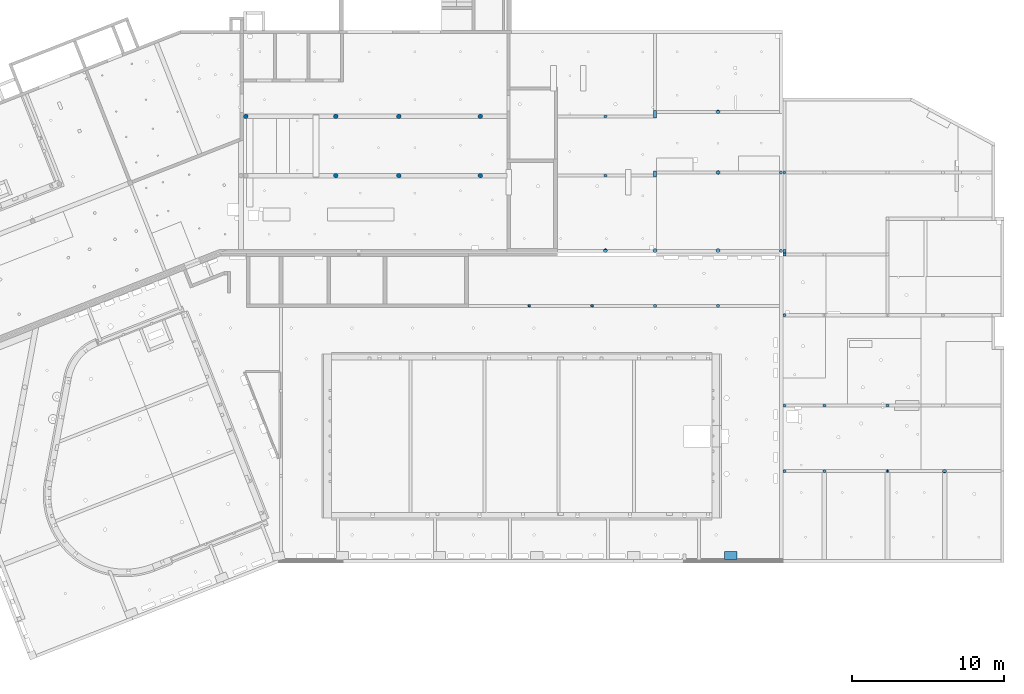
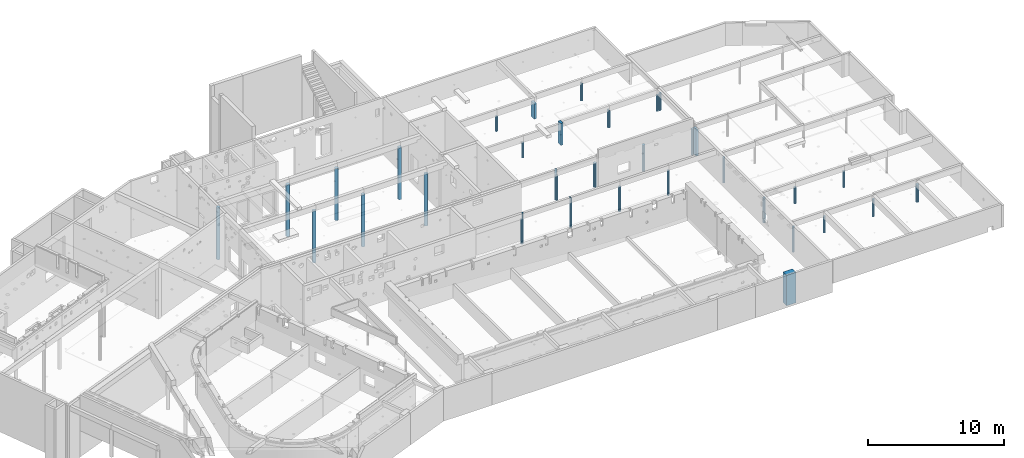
# One storey, part 2 of 28: 33 columns.
"""IFC2X3 building model written with IfcOpenShell, lengths in metres."""

from ifc_helpers import new_model, entity, si_unit, converted_unit, direction, frame, frame_2d, origin, origin_with_axes, place, context, subcontext, project, spatial, polyline, rectangle, circle, outline, extrude, clip, bounded_halfspace, material, element, save


model = new_model("IFC2X3")

# Units and contexts
model_context = context("Model", 3, precision=1e-05, world=origin(), true_north=direction((-0.407059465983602, -0.913401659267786)))
body_context = subcontext(model_context, "Body", "Model", "MODEL_VIEW")
ifc_project = project(units=[si_unit("LENGTHUNIT", "METRE"), si_unit("AREAUNIT", "SQUARE_METRE"), si_unit("VOLUMEUNIT", "CUBIC_METRE"), si_unit("MASSUNIT", "GRAM", prefix="KILO"), converted_unit("PLANEANGLEUNIT", "DEGREE", entity("IfcPlaneAngleMeasure", 0.0174532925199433), si_unit("PLANEANGLEUNIT", "RADIAN"), dimensions=[0, 0, 0, 0, 0, 0, 0])], contexts=[model_context])

# Site, buildings, storey
site_placement = place(None, origin())
site = spatial("IfcSite", under=ifc_project, at=site_placement, Name="Site", CompositionType="ELEMENT")
building_1_placement = place(site_placement, origin())
building_1 = spatial("IfcBuilding", under=site, at=building_1_placement, Name="Site", CompositionType="COMPLEX")
building_2_placement = place(building_1_placement, origin())
building_2 = spatial("IfcBuilding", under=building_1, at=building_2_placement, Name="Bâtiments", CompositionType="ELEMENT")
storey_placement = place(building_2_placement, frame((0.0, 0.0, -5.3)))
storey = spatial("IfcBuildingStorey", under=building_2, at=storey_placement, Name="SOUS-SOL", CompositionType="ELEMENT", Elevation=-5.3)

# Columns
ifc_material_1 = material(Name="Béton")
column_1_placement = place(storey_placement, frame((27.8826390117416, 3.60173263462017, 0.0)))
element("IfcColumn", 1, at=column_1_placement, inside=storey, material=ifc_material_1, Name="Pot 010", context=body_context, shape_type="SweptSolid", body=[
    extrude(circle(Radius=0.15, at=frame_2d((0.15, 0.15), x_axis=(1.0, 0.0))), origin_with_axes(), (0.0, 0.0, 1.0), 4.68),
])
ifc_material_2 = material(Name="Béton")
column_2_placement = place(storey_placement, frame((33.8127983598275, 3.60172935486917, 0.0)))
element("IfcColumn", 2, at=column_2_placement, inside=storey, material=ifc_material_2, Name="Pot 011", context=body_context, shape_type="SweptSolid", body=[
    extrude(circle(Radius=0.15, at=frame_2d((0.15, 0.15), x_axis=(1.0, 0.0))), origin_with_axes(), (0.0, 0.0, 1.0), 4.68),
])
ifc_material_3 = material(Name="Béton")
column_3_placement = place(storey_placement, frame((37.968464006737, 3.60173263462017, 0.0)))
element("IfcColumn", 3, at=column_3_placement, inside=storey, material=ifc_material_3, Name="Pot 012", context=body_context, shape_type="SweptSolid", body=[
    extrude(circle(Radius=0.15, at=frame_2d((0.15, 0.15), x_axis=(1.0, 0.0))), origin_with_axes(), (0.0, 0.0, 1.0), 4.68),
])
ifc_material_4 = material(Name="Béton")
column_4_placement = place(storey_placement, frame((43.3423226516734, 3.60173263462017, 0.0)))
element("IfcColumn", 4, at=column_4_placement, inside=storey, material=ifc_material_4, Name="Pot 013", context=body_context, shape_type="SweptSolid", body=[
    extrude(circle(Radius=0.15, at=frame_2d((0.15, 0.15), x_axis=(1.0, 0.0))), origin_with_axes(), (0.0, 0.0, 1.0), 4.68),
])
ifc_material_5 = material(Name="Béton")
column_5_placement = place(storey_placement, frame((33.8127983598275, -0.298270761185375, 0.0)))
element("IfcColumn", 5, at=column_5_placement, inside=storey, material=ifc_material_5, Name="Pot 018", context=body_context, shape_type="SweptSolid", body=[
    extrude(circle(Radius=0.15, at=frame_2d((0.15, 0.15), x_axis=(1.0, 0.0))), origin_with_axes(), (0.0, 0.0, 1.0), 4.68),
])
ifc_material_6 = material(Name="Béton")
column_6_placement = place(storey_placement, frame((37.968464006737, -0.298267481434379, 0.0)))
element("IfcColumn", 6, at=column_6_placement, inside=storey, material=ifc_material_6, Name="Pot 019", context=body_context, shape_type="SweptSolid", body=[
    extrude(circle(Radius=0.15, at=frame_2d((0.15, 0.15), x_axis=(1.0, 0.0))), origin_with_axes(), (0.0, 0.0, 1.0), 4.68),
])
ifc_material_7 = material(Name="Béton")
column_7_placement = place(storey_placement, frame((43.3423226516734, -0.298267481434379, 0.0)))
element("IfcColumn", 7, at=column_7_placement, inside=storey, material=ifc_material_7, Name="Pot 020", context=body_context, shape_type="SweptSolid", body=[
    extrude(circle(Radius=0.15, at=frame_2d((0.15, 0.15), x_axis=(1.0, 0.0))), origin_with_axes(), (0.0, 0.0, 1.0), 4.68),
])
ifc_material_8 = material(Name="Béton")
column_8_placement = place(storey_placement, frame((46.6127657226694, -8.83384396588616, 2.4)))
element("IfcColumn", 8, at=column_8_placement, inside=storey, material=ifc_material_8, Name="Pot 038", context=body_context, shape_type="Clipping", body=[
    clip(extrude(outline(polyline([(0.108610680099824, 0.199745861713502), (0.0911351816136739, 0.199745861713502), (0.073925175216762, 0.196711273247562), (0.057503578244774, 0.190734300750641), (0.042369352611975, 0.181996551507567), (0.028982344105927, 0.170763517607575), (0.0177493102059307, 0.157376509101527), (0.00901156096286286, 0.142242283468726), (0.00303458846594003, 0.125820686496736), (0.0, 0.108610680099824), (0.0, 0.0911351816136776), (0.00303458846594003, 0.0739251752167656), (0.00901156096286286, 0.0575035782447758), (0.0177493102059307, 0.042369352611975), (0.028982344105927, 0.028982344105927), (0.042369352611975, 0.0177493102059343), (0.057503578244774, 0.00901156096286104), (0.073925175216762, 0.00303458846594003), (0.0911351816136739, 0.0), (0.108610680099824, 0.0), (0.125820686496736, 0.00303458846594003), (0.142242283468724, 0.00901156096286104), (0.157376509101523, 0.0177493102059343), (0.170763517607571, 0.028982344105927), (0.181996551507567, 0.042369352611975), (0.190734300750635, 0.0575035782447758), (0.196711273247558, 0.0739251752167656), (0.199745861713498, 0.0911351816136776), (0.199745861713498, 0.108610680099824), (0.196711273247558, 0.125820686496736), (0.190734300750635, 0.142242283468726), (0.181996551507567, 0.157376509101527), (0.170763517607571, 0.170763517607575), (0.157376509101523, 0.181996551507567), (0.142242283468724, 0.190734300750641), (0.125820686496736, 0.196711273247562), (0.108610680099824, 0.199745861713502)])), origin_with_axes(), (0.0, 0.0, 1.0), 2.76), bounded_halfspace(frame((0.04235885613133, 0.0998729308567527, 2.26), z_axis=(0.0, 0.0, -1.0), x_axis=(1.5030027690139e-05, 0.999999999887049, 0.0)), True, origin_with_axes(), polyline([(0.099875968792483, 0.0), (0.0998789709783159, 0.199745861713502), (0.0911351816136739, 0.199745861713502), (0.073925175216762, 0.196711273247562), (0.057503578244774, 0.190734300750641), (0.042369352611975, 0.181996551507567), (0.028982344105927, 0.170763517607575), (0.0177493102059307, 0.157376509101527), (0.00901156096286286, 0.142242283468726), (0.00303458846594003, 0.125820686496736), (0.0, 0.108610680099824), (0.0, 0.0911351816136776), (0.00303458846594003, 0.0739251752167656), (0.00901156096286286, 0.0575035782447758), (0.0177493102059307, 0.042369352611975), (0.028982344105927, 0.028982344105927), (0.042369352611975, 0.0177493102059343), (0.057503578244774, 0.00901156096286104), (0.073925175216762, 0.00303458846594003), (0.0911351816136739, 0.0), (0.099875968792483, 0.0)]))),
])
ifc_material_9 = material(Name="Béton")
column_9_placement = place(storey_placement, frame((50.7627657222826, -8.83374696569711, 2.4)))
element("IfcColumn", 9, at=column_9_placement, inside=storey, material=ifc_material_9, Name="Pot 039", context=body_context, shape_type="Clipping", body=[
    clip(extrude(outline(polyline([(0.108610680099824, 0.199745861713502), (0.0911351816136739, 0.199745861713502), (0.073925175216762, 0.19671127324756), (0.057503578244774, 0.190734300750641), (0.042369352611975, 0.181996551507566), (0.028982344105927, 0.170763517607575), (0.0177493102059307, 0.157376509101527), (0.00901156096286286, 0.142242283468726), (0.00303458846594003, 0.125820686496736), (0.0, 0.108610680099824), (0.0, 0.0911351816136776), (0.00303458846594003, 0.0739251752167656), (0.00901156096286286, 0.0575035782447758), (0.0177493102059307, 0.042369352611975), (0.028982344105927, 0.028982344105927), (0.042369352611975, 0.0177493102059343), (0.057503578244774, 0.00901156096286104), (0.073925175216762, 0.00303458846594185), (0.0911351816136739, 0.0), (0.108610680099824, 0.0), (0.125820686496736, 0.00303458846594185), (0.142242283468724, 0.00901156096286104), (0.157376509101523, 0.0177493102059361), (0.170763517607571, 0.028982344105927), (0.181996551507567, 0.042369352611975), (0.190734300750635, 0.0575035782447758), (0.196711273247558, 0.0739251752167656), (0.199745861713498, 0.0911351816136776), (0.199745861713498, 0.108610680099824), (0.196711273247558, 0.125820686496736), (0.190734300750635, 0.142242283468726), (0.181996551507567, 0.157376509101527), (0.170763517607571, 0.170763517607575), (0.157376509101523, 0.181996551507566), (0.142242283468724, 0.190734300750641), (0.125820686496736, 0.19671127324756), (0.108610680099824, 0.199745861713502)])), origin_with_axes(), (0.0, 0.0, 1.0), 2.76), bounded_halfspace(frame((0.15738836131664, 0.0998729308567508, 2.26), z_axis=(0.0, 0.0, -1.0), x_axis=(1.25275025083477e-07, -0.999999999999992, 0.0)), True, origin_with_axes(), polyline([(0.0998819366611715, 0.199745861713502), (0.0998819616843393, 0.0), (0.108610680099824, 0.0), (0.125820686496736, 0.00303458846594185), (0.142242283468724, 0.00901156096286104), (0.157376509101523, 0.0177493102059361), (0.170763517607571, 0.028982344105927), (0.181996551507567, 0.042369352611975), (0.190734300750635, 0.0575035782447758), (0.196711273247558, 0.0739251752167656), (0.199745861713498, 0.0911351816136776), (0.199745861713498, 0.108610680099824), (0.196711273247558, 0.125820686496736), (0.190734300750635, 0.142242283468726), (0.181996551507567, 0.157376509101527), (0.170763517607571, 0.170763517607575), (0.157376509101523, 0.181996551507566), (0.142242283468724, 0.190734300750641), (0.125820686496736, 0.19671127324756), (0.108610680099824, 0.199745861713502), (0.0998819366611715, 0.199745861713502)]))),
])
ifc_material_10 = material(Name="Béton")
column_10_placement = place(storey_placement, frame((54.9126386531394, -8.83387403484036, 2.4)))
element("IfcColumn", 10, at=column_10_placement, inside=storey, material=ifc_material_10, Name="Pot 040", context=body_context, shape_type="SweptSolid", body=[
    extrude(circle(Radius=0.1, at=frame_2d((0.1, 0.1), x_axis=(1.0, 0.0))), origin_with_axes(), (0.0, 0.0, 1.0), 2.26),
])
ifc_material_11 = material(Name="Béton")
column_11_placement = place(storey_placement, frame((59.0626386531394, -8.83387403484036, 2.4)))
element("IfcColumn", 11, at=column_11_placement, inside=storey, material=ifc_material_11, Name="Pot 041", context=body_context, shape_type="SweptSolid", body=[
    extrude(circle(Radius=0.1, at=frame_2d((0.1, 0.1), x_axis=(1.0, 0.0))), origin_with_axes(), (0.0, 0.0, 1.0), 2.26),
])
ifc_material_12 = material(Name="Béton")
column_12_placement = place(storey_placement, frame((59.6019747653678, -25.4449271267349, 2.4)))
element("IfcColumn", 12, at=column_12_placement, inside=storey, material=ifc_material_12, Name="Pot 071", context=body_context, shape_type="SweptSolid", body=[
    extrude(rectangle(XDim=0.799999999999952, YDim=0.500000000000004, at=frame_2d((0.40000584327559, 0.249990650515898), x_axis=(0.999999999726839, -2.33735395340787e-05))), origin_with_axes(), (0.0, 0.0, 1.0), 2.76),
])
ifc_material_13 = material(Name="Béton")
column_13_placement = place(storey_placement, frame((51.6385891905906, 3.6517291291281, 3.2)))
element("IfcColumn", 13, at=column_13_placement, inside=storey, material=ifc_material_13, Name="Pot 014", context=body_context, shape_type="SweptSolid", body=[
    extrude(circle(Radius=0.0999999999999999, at=frame_2d((0.0999999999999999, 0.0999999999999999), x_axis=(1.0, 0.0))), origin_with_axes(), (0.0, 0.0, 1.0), 1.36),
])
ifc_material_14 = material(Name="Béton")
column_14_placement = place(storey_placement, frame((51.6385891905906, -0.248270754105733, 3.2)))
element("IfcColumn", 14, at=column_14_placement, inside=storey, material=ifc_material_14, Name="Pot 021", context=body_context, shape_type="SweptSolid", body=[
    extrude(circle(Radius=0.1, at=frame_2d((0.1, 0.1), x_axis=(1.0, 0.0))), origin_with_axes(), (0.0, 0.0, 1.0), 1.36),
])
ifc_material_15 = material(Name="Béton")
column_15_placement = place(storey_placement, frame((59.0380949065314, 3.93103986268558, 3.2)))
element("IfcColumn", 15, at=column_15_placement, inside=storey, material=ifc_material_15, Name="Pot 016", context=body_context, shape_type="Clipping", body=[
    clip(extrude(outline(polyline([(0.135763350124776, 0.249682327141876), (0.113918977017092, 0.249682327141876), (0.0924064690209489, 0.24588909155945), (0.0718794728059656, 0.2384178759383), (0.0529616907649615, 0.227495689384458), (0.0362279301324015, 0.213454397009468), (0.0221866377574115, 0.196720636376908), (0.0112644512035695, 0.177802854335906), (0.00379323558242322, 0.15727585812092), (0.0, 0.135763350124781), (0.0, 0.113918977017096), (0.00379323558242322, 0.0924064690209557), (0.0112644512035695, 0.0718794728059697), (0.0221866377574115, 0.0529616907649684), (0.0362279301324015, 0.0362279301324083), (0.0529616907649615, 0.0221866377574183), (0.0718794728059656, 0.0112644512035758), (0.0924064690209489, 0.00379323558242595), (0.113918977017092, 0.0), (0.135763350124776, 0.0), (0.15727585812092, 0.00379323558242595), (0.177802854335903, 0.0112644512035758), (0.196720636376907, 0.0221866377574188), (0.213454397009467, 0.0362279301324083), (0.227495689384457, 0.0529616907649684), (0.238417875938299, 0.0718794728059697), (0.245889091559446, 0.0924064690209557), (0.249682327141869, 0.113918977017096), (0.249682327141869, 0.135763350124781), (0.245889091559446, 0.15727585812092), (0.238417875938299, 0.177802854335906), (0.227495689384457, 0.196720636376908), (0.213454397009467, 0.213454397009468), (0.196720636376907, 0.227495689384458), (0.177802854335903, 0.2384178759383), (0.15727585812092, 0.24588909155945), (0.135763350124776, 0.249682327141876)])), origin_with_axes(), (0.0, 0.0, 1.0), 1.58), bounded_halfspace(frame((0.124841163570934, 0.124841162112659, 1.48), z_axis=(0.0, 0.0, -1.0), x_axis=(-1.0, -2.87467037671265e-09, 0.0)), True, origin_with_axes(), polyline([(0.199884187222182, 0.224841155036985), (0.0497981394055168, 0.224841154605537), (0.0362279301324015, 0.213454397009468), (0.0221866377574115, 0.196720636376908), (0.0112644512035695, 0.177802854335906), (0.00379323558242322, 0.15727585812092), (0.0, 0.135763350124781), (0.0, 0.113918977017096), (0.00379323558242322, 0.0924064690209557), (0.0112644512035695, 0.0718794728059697), (0.0221866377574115, 0.0529616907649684), (0.0362279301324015, 0.0362279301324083), (0.0497981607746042, 0.0248411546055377), (0.199884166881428, 0.024841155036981), (0.213454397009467, 0.0362279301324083), (0.227495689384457, 0.0529616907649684), (0.238417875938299, 0.0718794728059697), (0.245889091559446, 0.0924064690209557), (0.249682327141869, 0.113918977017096), (0.249682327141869, 0.135763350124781), (0.245889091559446, 0.15727585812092), (0.238417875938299, 0.177802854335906), (0.227495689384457, 0.196720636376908), (0.213454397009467, 0.213454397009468), (0.199884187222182, 0.224841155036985)]))),
])
ifc_material_16 = material(Name="Béton")
column_16_placement = place(storey_placement, frame((54.9124813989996, 3.65172912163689, 3.2)))
element("IfcColumn", 16, at=column_16_placement, inside=storey, material=ifc_material_16, Name="Pot 015", context=body_context, shape_type="SweptSolid", body=[
    extrude(rectangle(XDim=0.199999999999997, YDim=0.5, at=frame_2d((0.0999941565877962, 0.250002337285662), x_axis=(0.999999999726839, 2.33735395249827e-05))), origin_with_axes(), (0.0, 0.0, 1.0), 1.36),
])
ifc_material_17 = material(Name="Béton")
column_17_placement = place(storey_placement, frame((59.0380949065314, -0.073112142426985, 3.2)))
element("IfcColumn", 17, at=column_17_placement, inside=storey, material=ifc_material_17, Name="Pot 023", context=body_context, shape_type="Clipping", body=[
    clip(extrude(outline(polyline([(0.135763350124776, 0.249682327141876), (0.113918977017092, 0.249682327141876), (0.0924064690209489, 0.24588909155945), (0.0718794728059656, 0.2384178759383), (0.0529616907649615, 0.227495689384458), (0.0362279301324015, 0.213454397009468), (0.0221866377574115, 0.196720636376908), (0.0112644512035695, 0.177802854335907), (0.00379323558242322, 0.157275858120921), (0.0, 0.135763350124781), (0.0, 0.113918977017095), (0.00379323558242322, 0.0924064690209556), (0.0112644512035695, 0.0718794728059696), (0.0221866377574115, 0.0529616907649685), (0.0362279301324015, 0.0362279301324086), (0.0529616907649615, 0.0221866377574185), (0.0718794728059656, 0.011264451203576), (0.0924064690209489, 0.00379323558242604), (0.113918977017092, 0.0), (0.135763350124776, 0.0), (0.15727585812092, 0.00379323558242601), (0.177802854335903, 0.0112644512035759), (0.196720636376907, 0.0221866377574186), (0.213454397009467, 0.0362279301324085), (0.227495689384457, 0.0529616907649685), (0.238417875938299, 0.0718794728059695), (0.245889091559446, 0.0924064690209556), (0.249682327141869, 0.113918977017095), (0.249682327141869, 0.135763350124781), (0.245889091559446, 0.157275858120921), (0.238417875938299, 0.177802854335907), (0.227495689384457, 0.196720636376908), (0.213454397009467, 0.213454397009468), (0.196720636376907, 0.227495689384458), (0.177802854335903, 0.2384178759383), (0.15727585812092, 0.24588909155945), (0.135763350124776, 0.249682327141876)])), origin_with_axes(), (0.0, 0.0, 1.0), 1.58), bounded_halfspace(frame((0.124841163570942, 0.124841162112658, 1.48), z_axis=(0.0, 0.0, -1.0), x_axis=(0.766044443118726, -0.642787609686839, 0.0)), True, origin_with_axes(), polyline([(0.0362279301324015, 0.0362279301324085), (0.0497981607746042, 0.0248411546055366), (0.199884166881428, 0.0248411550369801), (0.213454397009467, 0.0362279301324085), (0.227495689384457, 0.0529616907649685), (0.238417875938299, 0.0718794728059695), (0.245889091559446, 0.0924064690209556), (0.249682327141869, 0.113918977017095), (0.249682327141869, 0.135763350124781), (0.245889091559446, 0.157275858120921), (0.238417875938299, 0.177802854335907), (0.227495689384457, 0.196720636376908), (0.213454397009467, 0.213454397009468), (0.199884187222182, 0.224841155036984), (0.0497981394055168, 0.224841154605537), (0.0362279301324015, 0.213454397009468), (0.0221866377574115, 0.196720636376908), (0.0112644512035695, 0.177802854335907), (0.00379323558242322, 0.157275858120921), (0.0, 0.135763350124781), (0.0, 0.113918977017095), (0.00379323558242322, 0.0924064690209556), (0.0112644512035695, 0.0718794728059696), (0.0221866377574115, 0.0529616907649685), (0.0362279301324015, 0.0362279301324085)]))),
])
ifc_material_18 = material(Name="Béton")
column_18_placement = place(storey_placement, frame((63.2133877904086, -0.0482733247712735, 3.2)))
element("IfcColumn", 18, at=column_18_placement, inside=storey, material=ifc_material_18, Name="Pot 024", context=body_context, shape_type="SweptSolid", body=[
    extrude(circle(Radius=0.1, at=frame_2d((0.1, 0.1), x_axis=(1.0, 0.0))), origin_with_axes(), (0.0, 0.0, 1.0), 1.48),
])
ifc_material_19 = material(Name="Béton")
column_19_placement = place(storey_placement, frame((63.2133924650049, -5.21896206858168, 2.4)))
element("IfcColumn", 19, at=column_19_placement, inside=storey, material=ifc_material_19, Name="Pot 034", context=body_context, shape_type="SweptSolid", body=[
    extrude(circle(Radius=0.1, at=frame_2d((0.1, 0.1), x_axis=(1.0, 0.0))), origin_with_axes(), (0.0, 0.0, 1.0), 2.36),
])
ifc_material_20 = material(Name="Béton")
column_20_placement = place(storey_placement, frame((63.4333924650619, -0.0482733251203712, 3.2)))
element("IfcColumn", 20, at=column_20_placement, inside=storey, material=ifc_material_20, Name="Pot 025", context=body_context, shape_type="SweptSolid", body=[
    extrude(circle(Radius=0.1, at=frame_2d((0.1, 0.1), x_axis=(1.0, 0.0))), origin_with_axes(), (0.0, 0.0, 1.0), 1.56),
])
ifc_material_21 = material(Name="Béton")
column_21_placement = place(storey_placement, frame((63.4333828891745, -5.43895973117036, 2.4)))
element("IfcColumn", 21, at=column_21_placement, inside=storey, material=ifc_material_21, Name="Pot 035", context=body_context, shape_type="Clipping", body=[
    clip(extrude(rectangle(XDim=0.199999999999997, YDim=0.42, at=frame_2d((0.100004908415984, 0.209997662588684), x_axis=(0.999999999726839, -2.33735395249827e-05))), origin_with_axes(), (0.0, 0.0, 1.0), 2.38), bounded_halfspace(frame((0.100004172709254, 0.099994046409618, 2.36), z_axis=(-5.68457523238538e-16, -5.68441650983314e-16, -1.0), x_axis=(-2.26951403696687e-05, -0.999999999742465, 1.1369102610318e-15)), True, origin_with_axes(), polyline([(8.27763256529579e-06, 0.199992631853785), (3.73877170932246e-06, -8.738788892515e-11), (0.199999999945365, -4.67470790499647e-06), (0.200004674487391, 0.199988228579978), (8.27763256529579e-06, 0.199992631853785)]))),
])
ifc_material_22 = material(Name="Béton")
column_22_placement = place(storey_placement, frame((63.4333930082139, -19.74001978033, 2.4)))
element("IfcColumn", 22, at=column_22_placement, inside=storey, material=ifc_material_22, Name="Pot 050", context=body_context, shape_type="SweptSolid", body=[
    extrude(circle(Radius=0.100000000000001, at=frame_2d((0.100000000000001, 0.100000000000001), x_axis=(1.0, 0.0))), origin_with_axes(), (0.0, 0.0, 1.0), 2.28),
])
ifc_material_23 = material(Name="Béton")
column_23_placement = place(storey_placement, frame((66.0729499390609, -19.74001978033, 3.2)))
element("IfcColumn", 23, at=column_23_placement, inside=storey, material=ifc_material_23, Name="Pot 051", context=body_context, shape_type="SweptSolid", body=[
    extrude(circle(Radius=0.0999999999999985, at=frame_2d((0.0999999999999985, 0.0999999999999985), x_axis=(1.0, 0.0))), origin_with_axes(), (0.0, 0.0, 1.0), 1.48),
])
ifc_material_24 = material(Name="Béton")
column_24_placement = place(storey_placement, frame((70.2329884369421, -19.7398971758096, 3.2)))
element("IfcColumn", 24, at=column_24_placement, inside=storey, material=ifc_material_24, Name="Pot 052", context=body_context, shape_type="Clipping", body=[
    clip(extrude(outline(polyline([(0.108610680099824, 0.199745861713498), (0.0911351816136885, 0.199745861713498), (0.0739251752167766, 0.196711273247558), (0.0575035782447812, 0.190734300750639), (0.042369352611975, 0.181996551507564), (0.028982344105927, 0.170763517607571), (0.0177493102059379, 0.157376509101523), (0.00901156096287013, 0.142242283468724), (0.00303458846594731, 0.125820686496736), (0.0, 0.108610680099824), (0.0, 0.0911351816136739), (0.00303458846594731, 0.073925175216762), (0.00901156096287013, 0.057503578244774), (0.0177493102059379, 0.042369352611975), (0.028982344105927, 0.028982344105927), (0.042369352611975, 0.0177493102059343), (0.0575035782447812, 0.00901156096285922), (0.0739251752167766, 0.00303458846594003), (0.0911351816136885, 0.0), (0.108610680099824, 0.0), (0.125820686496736, 0.00303458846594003), (0.142242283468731, 0.00901156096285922), (0.157376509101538, 0.0177493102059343), (0.170763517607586, 0.028982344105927), (0.181996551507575, 0.042369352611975), (0.190734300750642, 0.057503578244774), (0.196711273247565, 0.073925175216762), (0.199745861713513, 0.0911351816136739), (0.199745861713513, 0.108610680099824), (0.196711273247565, 0.125820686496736), (0.190734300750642, 0.142242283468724), (0.181996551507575, 0.157376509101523), (0.170763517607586, 0.170763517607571), (0.157376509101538, 0.181996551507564), (0.142242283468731, 0.190734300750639), (0.125820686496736, 0.196711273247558), (0.108610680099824, 0.199745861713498)])), origin_with_axes(), (0.0, 0.0, 1.0), 1.58), bounded_halfspace(frame((0.0423582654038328, 0.099872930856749, 1.48), z_axis=(0.0, 0.0, -1.0), x_axis=(-4.14692381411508e-06, 0.999999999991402, 0.0)), True, origin_with_axes(), polyline([(0.0998719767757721, 0.0), (0.0998711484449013, 0.199745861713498), (0.0911351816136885, 0.199745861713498), (0.0739251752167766, 0.196711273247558), (0.0575035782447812, 0.190734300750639), (0.042369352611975, 0.181996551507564), (0.028982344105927, 0.170763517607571), (0.0177493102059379, 0.157376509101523), (0.00901156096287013, 0.142242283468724), (0.00303458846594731, 0.125820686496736), (0.0, 0.108610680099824), (0.0, 0.0911351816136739), (0.00303458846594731, 0.073925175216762), (0.00901156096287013, 0.057503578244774), (0.0177493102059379, 0.042369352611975), (0.028982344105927, 0.028982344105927), (0.042369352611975, 0.0177493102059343), (0.0575035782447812, 0.00901156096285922), (0.0739251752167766, 0.00303458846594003), (0.0911351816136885, 0.0), (0.0998719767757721, 0.0)]))),
])
ifc_material_25 = material(Name="Béton")
column_25_placement = place(storey_placement, frame((54.9124814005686, -0.248270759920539, 3.2)))
element("IfcColumn", 25, at=column_25_placement, inside=storey, material=ifc_material_25, Name="Pot 022", context=body_context, shape_type="SweptSolid", body=[
    extrude(rectangle(XDim=0.199999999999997, YDim=0.4, at=frame_2d((0.0999953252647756, 0.20000233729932), x_axis=(0.999999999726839, 2.33735395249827e-05))), origin_with_axes(), (0.0, 0.0, 1.0), 1.98),
])
ifc_material_26 = material(Name="Béton")
column_26_placement = place(storey_placement, frame((51.6138642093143, -5.21878803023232, 2.4)))
element("IfcColumn", 26, at=column_26_placement, inside=storey, material=ifc_material_26, Name="Pot 031", context=body_context, shape_type="Clipping", body=[
    clip(extrude(outline(polyline([(0.135763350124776, 0.249682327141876), (0.113918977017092, 0.249682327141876), (0.0924064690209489, 0.24588909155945), (0.0718794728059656, 0.2384178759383), (0.0529616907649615, 0.227495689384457), (0.0362279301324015, 0.213454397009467), (0.0221866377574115, 0.196720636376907), (0.0112644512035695, 0.177802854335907), (0.00379323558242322, 0.157275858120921), (0.0, 0.135763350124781), (0.0, 0.113918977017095), (0.00379323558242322, 0.0924064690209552), (0.0112644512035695, 0.0718794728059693), (0.0221866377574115, 0.0529616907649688), (0.0362279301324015, 0.0362279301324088), (0.0529616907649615, 0.0221866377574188), (0.0718794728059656, 0.0112644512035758), (0.0924064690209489, 0.00379323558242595), (0.113918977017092, 0.0), (0.135763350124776, 0.0), (0.15727585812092, 0.00379323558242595), (0.177802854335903, 0.0112644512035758), (0.196720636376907, 0.0221866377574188), (0.213454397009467, 0.0362279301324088), (0.227495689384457, 0.0529616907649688), (0.238417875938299, 0.0718794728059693), (0.245889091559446, 0.0924064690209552), (0.249682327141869, 0.113918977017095), (0.249682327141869, 0.135763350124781), (0.245889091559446, 0.157275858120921), (0.238417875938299, 0.177802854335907), (0.227495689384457, 0.196720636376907), (0.213454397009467, 0.213454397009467), (0.196720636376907, 0.227495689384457), (0.177802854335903, 0.2384178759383), (0.15727585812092, 0.24588909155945), (0.135763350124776, 0.249682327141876)])), origin_with_axes(), (0.0, 0.0, 1.0), 2.76), bounded_halfspace(frame((0.124841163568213, 0.0908603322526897, 2.18), z_axis=(0.0, 0.0, -1.0), x_axis=(-0.642787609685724, -0.766044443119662, 0.0)), True, origin_with_axes(), polyline([(0.0248066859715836, 0.199843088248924), (0.0221866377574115, 0.196720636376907), (0.0112644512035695, 0.177802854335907), (0.00379323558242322, 0.157275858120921), (0.0, 0.135763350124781), (0.0, 0.113918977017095), (0.00379323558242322, 0.0924064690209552), (0.0112644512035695, 0.0718794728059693), (0.0221866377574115, 0.0529616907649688), (0.0362279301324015, 0.0362279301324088), (0.0529616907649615, 0.0221866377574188), (0.0718794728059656, 0.0112644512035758), (0.0924064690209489, 0.00379323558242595), (0.113918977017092, 0.0), (0.135763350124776, 0.0), (0.15727585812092, 0.00379323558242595), (0.177802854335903, 0.0112644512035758), (0.196720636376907, 0.0221866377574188), (0.213454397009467, 0.0362279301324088), (0.227495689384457, 0.0529616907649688), (0.238417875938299, 0.0718794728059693), (0.245889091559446, 0.0924064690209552), (0.249682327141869, 0.113918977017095), (0.249682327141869, 0.135763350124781), (0.245889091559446, 0.157275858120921), (0.238417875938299, 0.177802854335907), (0.227495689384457, 0.196720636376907), (0.224875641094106, 0.199843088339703), (0.0248066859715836, 0.199843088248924)]))),
])
ifc_material_27 = material(Name="Béton")
column_27_placement = place(storey_placement, frame((54.8874790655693, -5.21895392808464, 2.4)))
element("IfcColumn", 27, at=column_27_placement, inside=storey, material=ifc_material_27, Name="Pot 032", context=body_context, shape_type="SweptSolid", body=[
    extrude(circle(Radius=0.125, at=frame_2d((0.125, 0.125), x_axis=(1.0, 0.0))), origin_with_axes(), (0.0, 0.0, 1.0), 2.18),
])
ifc_material_28 = material(Name="Béton")
column_28_placement = place(storey_placement, frame((59.0379407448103, -5.2189490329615, 2.4)))
element("IfcColumn", 28, at=column_28_placement, inside=storey, material=ifc_material_28, Name="Pot 033", context=body_context, shape_type="SweptSolid", body=[
    extrude(circle(Radius=0.125, at=frame_2d((0.125, 0.125), x_axis=(1.0, 0.0))), origin_with_axes(), (0.0, 0.0, 1.0), 2.36),
])
ifc_material_29 = material(Name="Béton")
column_29_placement = place(storey_placement, frame((63.4333924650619, -15.4132576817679, 2.4)))
element("IfcColumn", 29, at=column_29_placement, inside=storey, material=ifc_material_29, Name="Pot 046", context=body_context, shape_type="SweptSolid", body=[
    extrude(circle(Radius=0.0999999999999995, at=frame_2d((0.0999999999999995, 0.0999999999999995), x_axis=(1.0, 0.0))), origin_with_axes(), (0.0, 0.0, 1.0), 2.28),
])
ifc_material_30 = material(Name="Béton")
column_30_placement = place(storey_placement, frame((66.0729499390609, -15.4132576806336, 3.2)))
element("IfcColumn", 30, at=column_30_placement, inside=storey, material=ifc_material_30, Name="Pot 047", context=body_context, shape_type="SweptSolid", body=[
    extrude(circle(Radius=0.1, at=frame_2d((0.1, 0.1), x_axis=(1.0, 0.0))), origin_with_axes(), (0.0, 0.0, 1.0), 1.48),
])
ifc_material_31 = material(Name="Béton")
column_31_placement = place(storey_placement, frame((70.2328613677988, -15.4132621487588, 3.2)))
element("IfcColumn", 31, at=column_31_placement, inside=storey, material=ifc_material_31, Name="Pot 048", context=body_context, shape_type="SweptSolid", body=[
    extrude(circle(Radius=0.1, at=frame_2d((0.1, 0.1), x_axis=(1.0, 0.0))), origin_with_axes(), (0.0, 0.0, 1.0), 1.48),
])
ifc_material_32 = material(Name="Béton")
column_32_placement = place(storey_placement, frame((63.4333924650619, -9.45744051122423, 2.4)))
element("IfcColumn", 32, at=column_32_placement, inside=storey, material=ifc_material_32, Name="Pot 042", context=body_context, shape_type="SweptSolid", body=[
    extrude(circle(Radius=0.0999999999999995, at=frame_2d((0.0999999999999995, 0.0999999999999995), x_axis=(1.0, 0.0))), origin_with_axes(), (0.0, 0.0, 1.0), 2.28),
])
ifc_material_33 = material(Name="Béton")
column_33_placement = place(storey_placement, frame((73.9680272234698, -19.764860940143, 3.2)))
element("IfcColumn", 33, at=column_33_placement, inside=storey, material=ifc_material_33, Name="Pot 053", context=body_context, shape_type="Clipping", body=[
    clip(extrude(outline(polyline([(0.135763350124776, 0.249682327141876), (0.113918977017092, 0.249682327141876), (0.0924064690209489, 0.245889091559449), (0.0718794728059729, 0.238417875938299), (0.0529616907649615, 0.227495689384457), (0.0362279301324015, 0.213454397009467), (0.0221866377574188, 0.196720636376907), (0.0112644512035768, 0.177802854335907), (0.00379323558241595, 0.15727585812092), (0.0, 0.13576335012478), (0.0, 0.113918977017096), (0.00379323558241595, 0.0924064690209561), (0.0112644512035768, 0.0718794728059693), (0.0221866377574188, 0.0529616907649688), (0.0362279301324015, 0.0362279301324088), (0.0529616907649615, 0.0221866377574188), (0.0718794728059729, 0.0112644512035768), (0.0924064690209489, 0.00379323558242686), (0.113918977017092, 0.0), (0.135763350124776, 0.0), (0.15727585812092, 0.00379323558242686), (0.177802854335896, 0.0112644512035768), (0.196720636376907, 0.0221866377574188), (0.213454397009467, 0.0362279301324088), (0.22749568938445, 0.0529616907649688), (0.238417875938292, 0.0718794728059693), (0.245889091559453, 0.0924064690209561), (0.249682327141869, 0.113918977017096), (0.249682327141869, 0.13576335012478), (0.245889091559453, 0.15727585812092), (0.238417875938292, 0.177802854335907), (0.22749568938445, 0.196720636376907), (0.213454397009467, 0.213454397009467), (0.196720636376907, 0.227495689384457), (0.177802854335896, 0.238417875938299), (0.15727585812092, 0.245889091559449), (0.135763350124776, 0.249682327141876)])), origin_with_axes(), (0.0, 0.0, 1.0), 1.58), bounded_halfspace(frame((0.124841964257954, 0.0124175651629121, 1.38), z_axis=(0.0, 0.0, -1.0), x_axis=(-0.999999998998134, -4.47630769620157e-05, 0.0)), True, origin_with_axes(), polyline([(0.199890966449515, 0.0248468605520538), (0.0497993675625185, 0.0248401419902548), (0.0529616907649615, 0.0221866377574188), (0.0718794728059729, 0.0112644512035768), (0.0924064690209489, 0.00379323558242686), (0.113918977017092, 0.0), (0.135763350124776, 0.0), (0.15727585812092, 0.00379323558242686), (0.177802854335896, 0.0112644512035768), (0.196720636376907, 0.0221866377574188), (0.199890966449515, 0.0248468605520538)]))),
])

save(model, "model.ifc")
